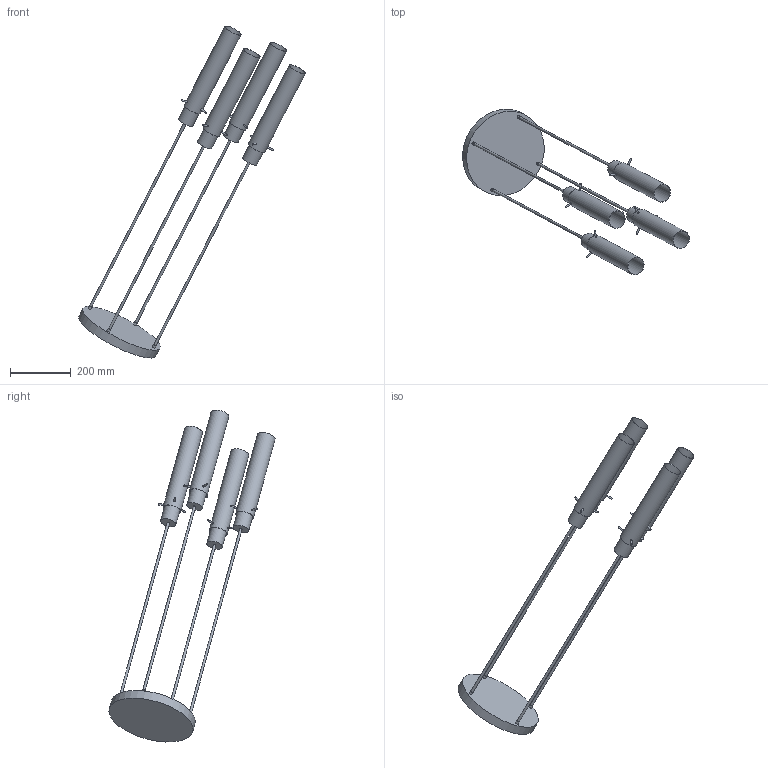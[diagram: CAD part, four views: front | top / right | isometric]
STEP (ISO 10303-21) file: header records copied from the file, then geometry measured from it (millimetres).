
FILE_DESCRIPTION(/* description */ (''),/* implementation_level */ '2;1');
FILE_NAME(/* name */ 'D:\TK Lighting\Look Graphite\3259\Look Graphite 3259.stp',/* time_stamp */ '2020-12-22T10:26:37+01:00',/* author */ ('Admin'),/* organization */ (''),/* preprocessor_version */ 'ST-DEVELOPER v16.5',/* originating_system */ 'Autodesk Inventor 2017',/* authorisation */ '');
FILE_SCHEMA (('AUTOMOTIVE_DESIGN { 1 0 10303 214 3 1 1 }'));
Products named in the file (7): Look Graphite 3259; Podsufitka; Zawiesie 3259; lampa 3147 kpl; lampa 3147; Klosz szklany; Lacznik 3147
Assembly tree (14 placements, depth 3):
  Look Graphite 3259
    Podsufitka
    Zawiesie 3259  x4
    lampa 3147 kpl  x4
      lampa 3147
      Klosz szklany
      Lacznik 3147
Bounding box: 745.28 x 546.05 x 1091.23 mm (x, y, z)
Volume: 3410819.7 mm3; surface area: 786313.9 mm2
Topology: 25 solids, 25 shells, 131 faces, 207 edges, 138 vertices
Faces by surface type: plane 70, cylinder 61
Full cylindrical faces by diameter (mm): 5 x12, 5.5 x12, 6 x12, 8 x4, 10 x4, 48 x4, 52 x4, 58 x4, 60 x4, 285 x1
Entity records: 1310 total; most frequent: CARTESIAN_POINT 421, DIRECTION 162, AXIS2_PLACEMENT_3D 81, EDGE_LOOP 68, ORIENTED_EDGE 68, STYLED_ITEM 37, FACE_OUTER_BOUND 35, ADVANCED_FACE 35
